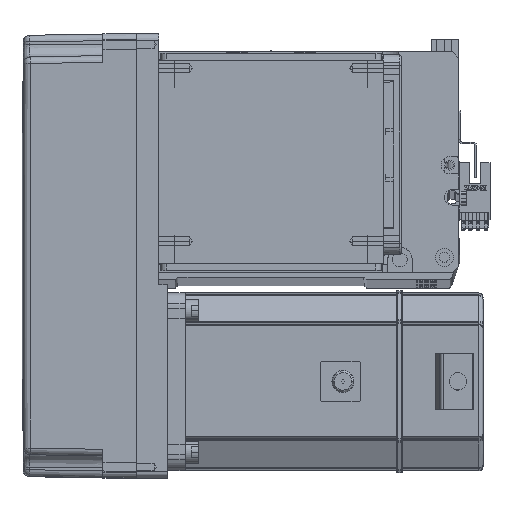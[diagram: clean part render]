
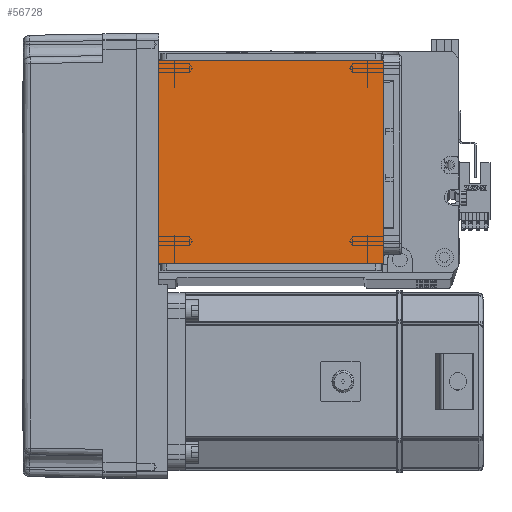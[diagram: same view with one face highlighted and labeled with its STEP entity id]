
A CAD part, top view. The second image highlights one B-rep face of the part: STEP entity #56728.
In plain terms, the highlighted planar face has unit normal (0, 0, 1).
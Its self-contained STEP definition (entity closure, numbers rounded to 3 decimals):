
#934 = VERTEX_POINT ( 'NONE', #50530 ) ;
#2447 = VERTEX_POINT ( 'NONE', #21509 ) ;
#4289 = DIRECTION ( 'NONE',  ( -1., 0., 0. ) ) ;
#4547 = EDGE_CURVE ( 'NONE', #934, #33562, #21326, .T. ) ;
#6382 = DIRECTION ( 'NONE',  ( 1., 0., 0. ) ) ;
#8816 = EDGE_CURVE ( 'NONE', #2447, #29154, #12196, .T. ) ;
#10622 = ORIENTED_EDGE ( 'NONE', *, *, #8816, .F. ) ;
#12196 = LINE ( 'NONE', #13869, #34803 ) ;
#13869 = CARTESIAN_POINT ( 'NONE',  ( -70.004, 20., 115. ) ) ;
#14254 = DIRECTION ( 'NONE',  ( 1., 0., 0. ) ) ;
#14842 = CARTESIAN_POINT ( 'NONE',  ( -50.5, 20., 115. ) ) ;
#16364 = VECTOR ( 'NONE', #60826, 1000. ) ;
#17132 = LINE ( 'NONE', #50681, #16364 ) ;
#21326 = LINE ( 'NONE', #56708, #43139 ) ;
#21509 = CARTESIAN_POINT ( 'NONE',  ( 50.5, 20., 115. ) ) ;
#24239 = FACE_OUTER_BOUND ( 'NONE', #49818, .T. ) ;
#25155 = PLANE ( 'NONE',  #48369 ) ;
#25684 = DIRECTION ( 'NONE',  ( 0., 1., 0. ) ) ;
#29154 = VERTEX_POINT ( 'NONE', #14842 ) ;
#29426 = LINE ( 'NONE', #59528, #40767 ) ;
#30010 = CARTESIAN_POINT ( 'NONE',  ( 0., 0., 115. ) ) ;
#33404 = EDGE_CURVE ( 'NONE', #2447, #33562, #29426, .T. ) ;
#33562 = VERTEX_POINT ( 'NONE', #56937 ) ;
#34332 = ORIENTED_EDGE ( 'NONE', *, *, #4547, .F. ) ;
#34803 = VECTOR ( 'NONE', #4289, 1000. ) ;
#34862 = DIRECTION ( 'NONE',  ( 0., 0., 1. ) ) ;
#40767 = VECTOR ( 'NONE', #25684, 1000. ) ;
#43139 = VECTOR ( 'NONE', #14254, 1000. ) ;
#48369 = AXIS2_PLACEMENT_3D ( 'NONE', #30010, #34862, #6382 ) ;
#49818 = EDGE_LOOP ( 'NONE', ( #34332, #50748, #10622, #62606 ) ) ;
#50530 = CARTESIAN_POINT ( 'NONE',  ( -50.5, 111.5, 115. ) ) ;
#50681 = CARTESIAN_POINT ( 'NONE',  ( -50.5, 122., 115. ) ) ;
#50748 = ORIENTED_EDGE ( 'NONE', *, *, #59474, .T. ) ;
#56708 = CARTESIAN_POINT ( 'NONE',  ( -70.004, 111.5, 115. ) ) ;
#56728 = ADVANCED_FACE ( 'NONE', ( #24239 ), #25155, .T. ) ;
#56937 = CARTESIAN_POINT ( 'NONE',  ( 50.5, 111.5, 115. ) ) ;
#59474 = EDGE_CURVE ( 'NONE', #934, #29154, #17132, .T. ) ;
#59528 = CARTESIAN_POINT ( 'NONE',  ( 50.5, 122., 115. ) ) ;
#60826 = DIRECTION ( 'NONE',  ( 0., -1., 0. ) ) ;
#62606 = ORIENTED_EDGE ( 'NONE', *, *, #33404, .T. ) ;
